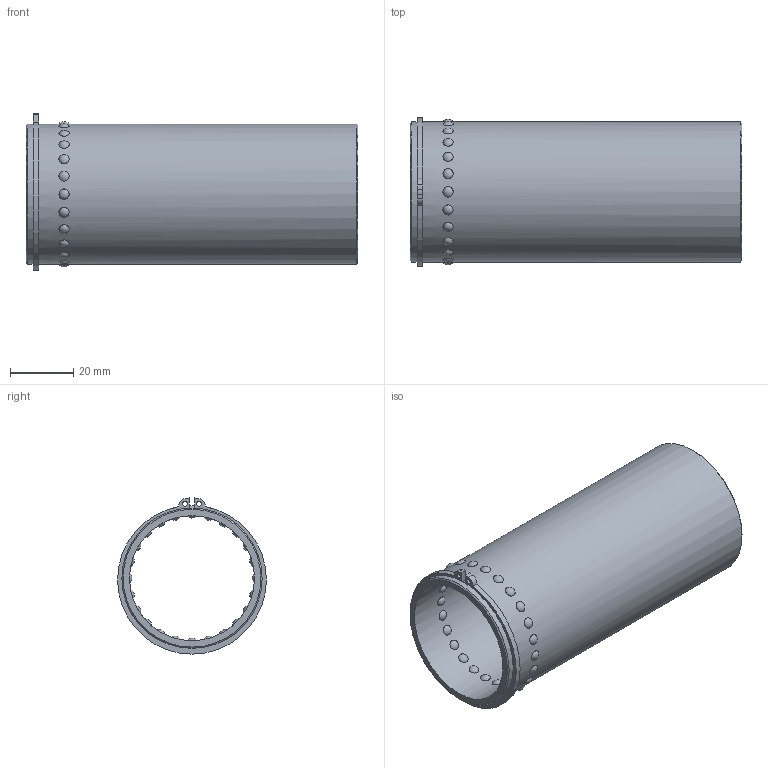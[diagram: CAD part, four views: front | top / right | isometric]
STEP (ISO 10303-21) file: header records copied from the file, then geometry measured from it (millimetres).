
FILE_DESCRIPTION(/* description */ ('Impex Ready, www.impex-ready.pl'),/* implementation_level */ '2;1');
FILE_NAME(/* name */ 'C:\Users\VIKKY\Nextcloud\SM\projekt 10 - części na stronę internetową\Pliki_3D_new\276 Koszyk GSA\276 GSA_STEP\GSA38105.ipt.step',/* time_stamp */ '2021-12-22T12:00:25+01:00',/* author */ ('SM'),/* organization */ (''),/* preprocessor_version */ 'ST-DEVELOPER v18.1',/* originating_system */ 'Autodesk Inventor 2021',/* authorisation */ '');
FILE_SCHEMA (('AUTOMOTIVE_DESIGN { 1 0 10303 214 3 1 1 }'));
Length unit declared in the file: millimetre
Products named in the file (1): GSA38105
Bounding box: 105 x 47.1 x 49.48 mm (x, y, z)
Volume: 33747.3 mm3; surface area: 29538.9 mm2
Topology: 2 solids, 2 shells, 72 faces, 106 edges, 86 vertices
Faces by surface type: sphere 48, plane 12, cylinder 10, cone 2
Full cylindrical faces by diameter (mm): 1.5 x2, 39.6 x1, 43.4 x1, 44.4 x2
Entity records: 3489 total; most frequent: CARTESIAN_POINT 2045, DIRECTION 222, ORIENTED_EDGE 212, EDGE_LOOP 126, EDGE_CURVE 106, AXIS2_PLACEMENT_3D 95, VERTEX_POINT 86, FACE_OUTER_BOUND 72
